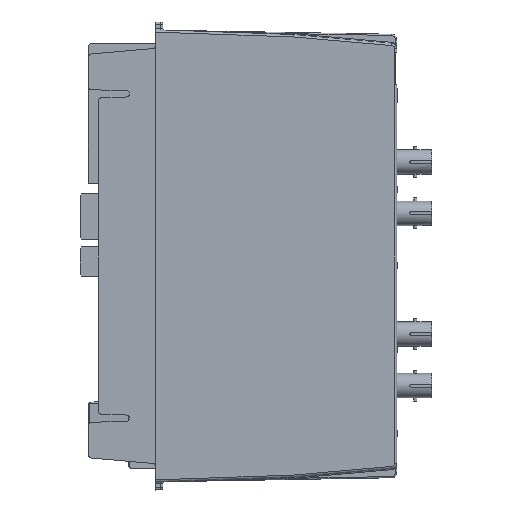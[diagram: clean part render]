
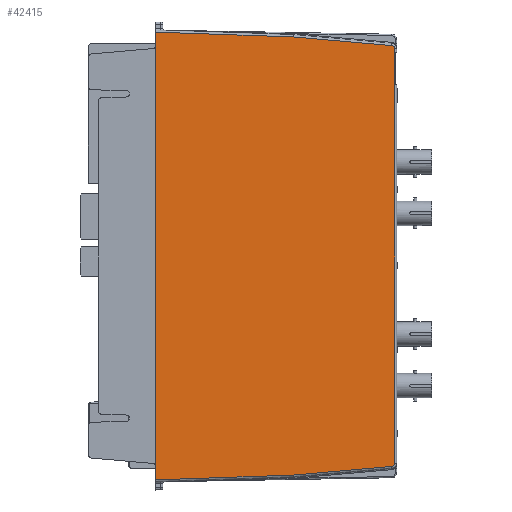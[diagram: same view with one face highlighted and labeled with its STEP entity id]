
A CAD part, left-side view. The second image highlights one B-rep face of the part: STEP entity #42415.
In plain terms, the highlighted planar face has unit normal (-1, -0.018, 0).
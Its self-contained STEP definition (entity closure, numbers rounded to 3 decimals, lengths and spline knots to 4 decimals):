
#431=ELLIPSE('',#44907,0.0315,0.0315);
#432=ELLIPSE('',#44908,0.0315,0.0315);
#3612=FACE_OUTER_BOUND('',#5924,.T.);
#5924=EDGE_LOOP('',(#28552,#28553,#28554,#28555,#28556,#28557,#28558,#28559,
#28560,#28561));
#8945=LINE('',#63646,#13083);
#8946=LINE('',#63650,#13084);
#8947=LINE('',#63652,#13085);
#8948=LINE('',#63654,#13086);
#8949=LINE('',#63656,#13087);
#8950=LINE('',#63658,#13088);
#8951=LINE('',#63662,#13089);
#8952=LINE('',#63665,#13090);
#13083=VECTOR('',#50307,39.3701);
#13084=VECTOR('',#50312,39.3701);
#13085=VECTOR('',#50313,39.3701);
#13086=VECTOR('',#50314,39.3701);
#13087=VECTOR('',#50315,39.3701);
#13088=VECTOR('',#50316,39.3701);
#13089=VECTOR('',#50319,39.3701);
#13090=VECTOR('',#50322,39.3701);
#17177=VERTEX_POINT('',#63643);
#17178=VERTEX_POINT('',#63645);
#17179=VERTEX_POINT('',#63649);
#17180=VERTEX_POINT('',#63651);
#17181=VERTEX_POINT('',#63653);
#17182=VERTEX_POINT('',#63655);
#17183=VERTEX_POINT('',#63657);
#17184=VERTEX_POINT('',#63659);
#17185=VERTEX_POINT('',#63661);
#17186=VERTEX_POINT('',#63663);
#21526=EDGE_CURVE('',#17178,#17177,#8945,.T.);
#21528=EDGE_CURVE('',#17177,#17179,#8946,.T.);
#21529=EDGE_CURVE('',#17180,#17179,#8947,.T.);
#21530=EDGE_CURVE('',#17180,#17181,#8948,.T.);
#21531=EDGE_CURVE('',#17181,#17182,#8949,.T.);
#21532=EDGE_CURVE('',#17182,#17183,#8950,.T.);
#21533=EDGE_CURVE('',#17183,#17184,#431,.T.);
#21534=EDGE_CURVE('',#17184,#17185,#8951,.T.);
#21535=EDGE_CURVE('',#17185,#17186,#432,.T.);
#21536=EDGE_CURVE('',#17186,#17178,#8952,.T.);
#28552=ORIENTED_EDGE('',*,*,#21526,.T.);
#28553=ORIENTED_EDGE('',*,*,#21528,.T.);
#28554=ORIENTED_EDGE('',*,*,#21529,.F.);
#28555=ORIENTED_EDGE('',*,*,#21530,.T.);
#28556=ORIENTED_EDGE('',*,*,#21531,.T.);
#28557=ORIENTED_EDGE('',*,*,#21532,.T.);
#28558=ORIENTED_EDGE('',*,*,#21533,.T.);
#28559=ORIENTED_EDGE('',*,*,#21534,.T.);
#28560=ORIENTED_EDGE('',*,*,#21535,.T.);
#28561=ORIENTED_EDGE('',*,*,#21536,.T.);
#38750=PLANE('',#44906);
#42415=ADVANCED_FACE('',(#3612),#38750,.T.);
#44906=AXIS2_PLACEMENT_3D('',#63648,#50310,#50311);
#44907=AXIS2_PLACEMENT_3D('',#63660,#50317,#50318);
#44908=AXIS2_PLACEMENT_3D('',#63664,#50320,#50321);
#50307=DIRECTION('',(-0.017,0.999,0.035));
#50310=DIRECTION('center_axis',(-1.,-0.017,0.));
#50311=DIRECTION('ref_axis',(-0.017,1.,0.));
#50312=DIRECTION('',(0.,0.,-1.));
#50313=DIRECTION('',(0.,0.,1.));
#50314=DIRECTION('',(0.,0.,-1.));
#50315=DIRECTION('',(0.017,-0.999,0.035));
#50316=DIRECTION('',(0.017,-0.996,0.087));
#50317=DIRECTION('center_axis',(-1.,-0.017,0.));
#50318=DIRECTION('ref_axis',(0.017,-1.,0.));
#50319=DIRECTION('',(0.,0.,1.));
#50320=DIRECTION('center_axis',(-1.,-0.017,0.));
#50321=DIRECTION('ref_axis',(0.017,-1.,0.));
#50322=DIRECTION('',(-0.017,0.996,0.087));
#63643=CARTESIAN_POINT('',(-0.0227,-0.8686,0.1083));
#63645=CARTESIAN_POINT('',(0.0007,-2.2063,0.0616));
#63646=CARTESIAN_POINT('',(-0.0282,-0.5512,0.1194));
#63648=CARTESIAN_POINT('Origin',(-0.0295,-0.4749,
-2.0669));
#63649=CARTESIAN_POINT('',(-0.0227,-0.8686,-0.0312));
#63650=CARTESIAN_POINT('',(-0.0227,-0.8686,0.128));
#63651=CARTESIAN_POINT('',(-0.0227,-0.8686,-4.1027));
#63652=CARTESIAN_POINT('',(-0.0227,-0.8686,-7.5932));
#63653=CARTESIAN_POINT('',(-0.0227,-0.8686,-4.2421));
#63654=CARTESIAN_POINT('',(-0.0227,-0.8686,0.128));
#63655=CARTESIAN_POINT('',(0.0007,-2.2063,-4.1954));
#63656=CARTESIAN_POINT('',(-0.0282,-0.5512,-4.2532));
#63657=CARTESIAN_POINT('',(0.0174,-3.163,-4.1117));
#63658=CARTESIAN_POINT('',(-0.0261,-0.6728,-4.3296));
#63659=CARTESIAN_POINT('',(0.0179,-3.1918,-4.0803));
#63660=CARTESIAN_POINT('Origin',(0.0173,-3.1603,-4.0803));
#63661=CARTESIAN_POINT('',(0.0179,-3.1918,-0.0535));
#63662=CARTESIAN_POINT('',(0.0179,-3.1918,-0.0535));
#63663=CARTESIAN_POINT('',(0.0174,-3.163,-0.0221));
#63664=CARTESIAN_POINT('Origin',(0.0173,-3.1603,-0.0535));
#63665=CARTESIAN_POINT('',(-0.0261,-0.6728,0.1957));
